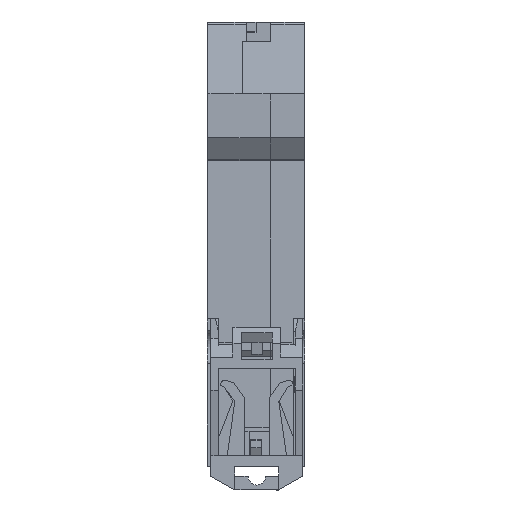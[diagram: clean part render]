
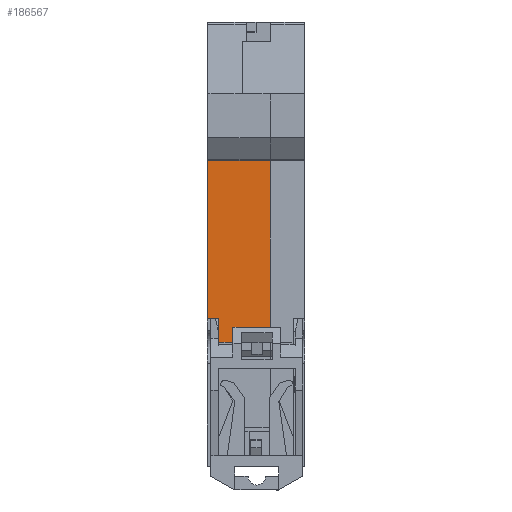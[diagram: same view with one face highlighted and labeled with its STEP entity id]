
A CAD part, left-side view. The second image highlights one B-rep face of the part: STEP entity #186567.
In plain terms, the highlighted planar face has unit normal (-1, 0, 0).
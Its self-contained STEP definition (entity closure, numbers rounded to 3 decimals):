
#13566 = CARTESIAN_POINT ( 'NONE',  ( -2.5, 17.8, 58.1 ) ) ;
#17369 = EDGE_LOOP ( 'NONE', ( #109541, #45056, #179828, #194190, #190552, #194404 ) ) ;
#20598 = PLANE ( 'NONE',  #154858 ) ;
#21441 = VECTOR ( 'NONE', #111930, 1000. ) ;
#23885 = LINE ( 'NONE', #39898, #21441 ) ;
#25736 = CARTESIAN_POINT ( 'NONE',  ( -2.5, 6.3, 58.1 ) ) ;
#35332 = DIRECTION ( 'NONE',  ( 0., -1., 0. ) ) ;
#37744 = CARTESIAN_POINT ( 'NONE',  ( -2.5, 17.8, 58.1 ) ) ;
#39898 = CARTESIAN_POINT ( 'NONE',  ( -2.5, 15.65, 58.1 ) ) ;
#45036 = CARTESIAN_POINT ( 'NONE',  ( -2.5, 15.65, 26.9 ) ) ;
#45056 = ORIENTED_EDGE ( 'NONE', *, *, #202874, .T. ) ;
#45208 = EDGE_CURVE ( 'NONE', #68977, #99115, #215263, .T. ) ;
#45331 = VECTOR ( 'NONE', #58566, 1000. ) ;
#47872 = VERTEX_POINT ( 'NONE', #45036 ) ;
#51604 = DIRECTION ( 'NONE',  ( 0., 0., 1. ) ) ;
#52581 = VECTOR ( 'NONE', #35332, 1000. ) ;
#52888 = EDGE_CURVE ( 'NONE', #90348, #104391, #153576, .T. ) ;
#55065 = CARTESIAN_POINT ( 'NONE',  ( -2.5, 6.3, 58.1 ) ) ;
#58566 = DIRECTION ( 'NONE',  ( 0., -1., 0. ) ) ;
#59052 = CARTESIAN_POINT ( 'NONE',  ( -2.5, 6.3, 22.6 ) ) ;
#61659 = VECTOR ( 'NONE', #226229, 1000. ) ;
#65573 = CARTESIAN_POINT ( 'NONE',  ( -2.5, 38.9, 58.1 ) ) ;
#68896 = VECTOR ( 'NONE', #206185, 1000. ) ;
#68977 = VERTEX_POINT ( 'NONE', #121244 ) ;
#90348 = VERTEX_POINT ( 'NONE', #55065 ) ;
#93212 = EDGE_CURVE ( 'NONE', #104391, #109674, #192906, .T. ) ;
#95445 = DIRECTION ( 'NONE',  ( 0., 0., 1. ) ) ;
#99115 = VERTEX_POINT ( 'NONE', #59052 ) ;
#104391 = VERTEX_POINT ( 'NONE', #13566 ) ;
#106525 = CARTESIAN_POINT ( 'NONE',  ( -2.5, 17.8, 22.6 ) ) ;
#109521 = EDGE_CURVE ( 'NONE', #109674, #47872, #210383, .T. ) ;
#109541 = ORIENTED_EDGE ( 'NONE', *, *, #109521, .T. ) ;
#109674 = VERTEX_POINT ( 'NONE', #213856 ) ;
#111930 = DIRECTION ( 'NONE',  ( 0., 0., -1. ) ) ;
#120166 = FACE_OUTER_BOUND ( 'NONE', #17369, .T. ) ;
#121244 = CARTESIAN_POINT ( 'NONE',  ( -2.5, 15.65, 22.6 ) ) ;
#124515 = CARTESIAN_POINT ( 'NONE',  ( -2.5, 17.8, 26.9 ) ) ;
#136756 = VECTOR ( 'NONE', #95445, 1000. ) ;
#153576 = LINE ( 'NONE', #65573, #68896 ) ;
#154858 = AXIS2_PLACEMENT_3D ( 'NONE', #37744, #155683, #51604 ) ;
#155683 = DIRECTION ( 'NONE',  ( 1., 0., 0. ) ) ;
#179828 = ORIENTED_EDGE ( 'NONE', *, *, #45208, .T. ) ;
#183540 = LINE ( 'NONE', #25736, #136756 ) ;
#186567 = ADVANCED_FACE ( 'NONE', ( #120166 ), #20598, .F. ) ;
#190552 = ORIENTED_EDGE ( 'NONE', *, *, #52888, .T. ) ;
#192906 = LINE ( 'NONE', #212436, #61659 ) ;
#194190 = ORIENTED_EDGE ( 'NONE', *, *, #208260, .T. ) ;
#194404 = ORIENTED_EDGE ( 'NONE', *, *, #93212, .T. ) ;
#202874 = EDGE_CURVE ( 'NONE', #47872, #68977, #23885, .T. ) ;
#206185 = DIRECTION ( 'NONE',  ( 0., 1., 0. ) ) ;
#208260 = EDGE_CURVE ( 'NONE', #99115, #90348, #183540, .T. ) ;
#210383 = LINE ( 'NONE', #124515, #52581 ) ;
#212436 = CARTESIAN_POINT ( 'NONE',  ( -2.5, 17.8, 58.1 ) ) ;
#213856 = CARTESIAN_POINT ( 'NONE',  ( -2.5, 17.8, 26.9 ) ) ;
#215263 = LINE ( 'NONE', #106525, #45331 ) ;
#226229 = DIRECTION ( 'NONE',  ( 0., 0., -1. ) ) ;
